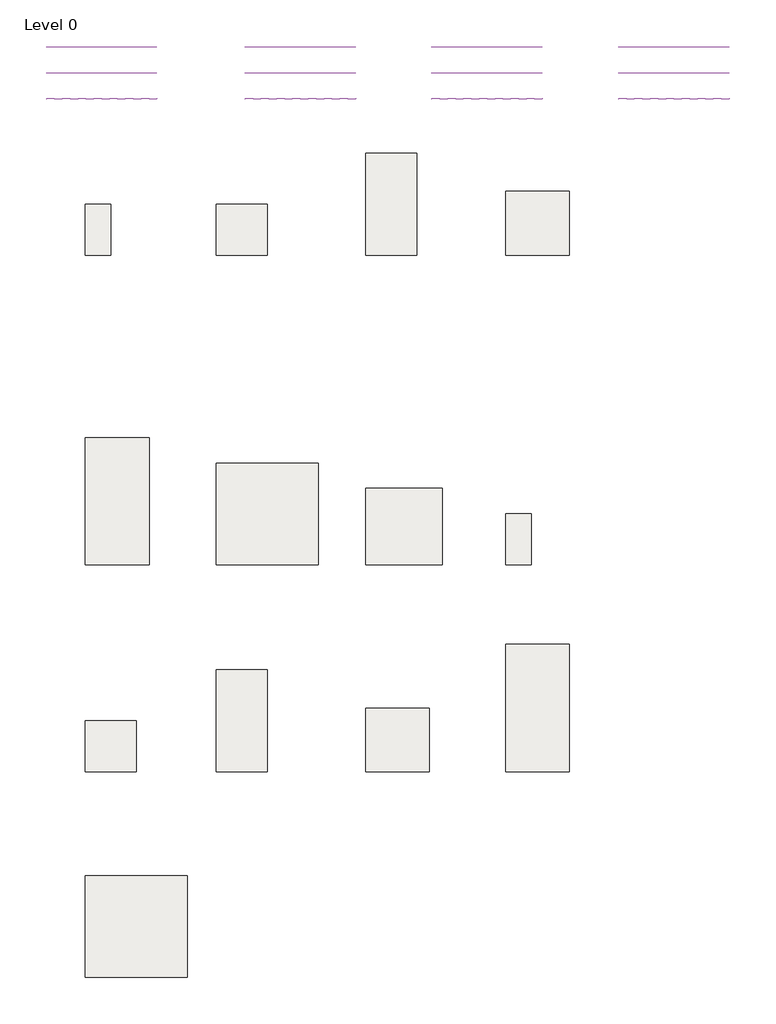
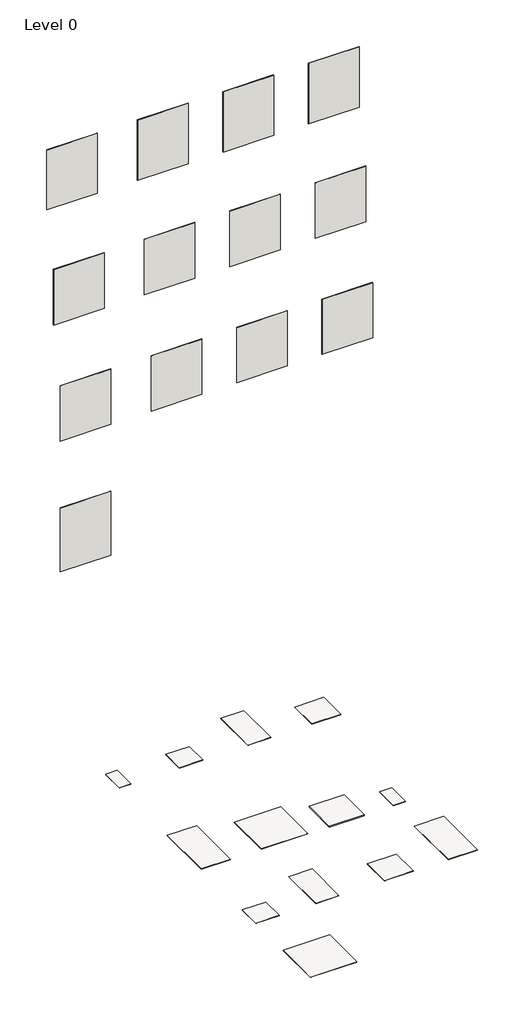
# One storey: 13 slabs, 13 walls.
"""IFC4 building model written with IfcOpenShell, lengths in millimetres."""

from ifc_helpers import new_model, si_unit, frame, origin, place, context, project, spatial, polyline, outline, extrude, element, save

model = new_model("IFC4")

# Units and contexts
model_context = context("Model", 3, world=origin())
ifc_project = project(units=[si_unit("LENGTHUNIT", "METRE", prefix="MILLI")], contexts=[model_context])

# Site, building, storey
site = spatial("IfcSite", under=ifc_project)
building = spatial("IfcBuilding", under=site)
storey = spatial("IfcBuildingStorey", under=building, Name="Level 0", Elevation=0.0)

# Slabs
placement = place(None, origin())
element("IfcSlab", 1, ObjectType="Floor_Tiles_Refin-Block-Cinder-60x120 NC82", at=placement, inside=storey, context=model_context, shape_type="SweptSolid", body=[
    extrude(outline(polyline([(10277.1861419, 6889.4623743), (10277.1861419, 5689.4623743), (9677.1861419, 5689.4623743), (9677.1861419, 6889.4623743), (10277.1861419, 6889.4623743)])), frame((0.0, 0.0, -10.0), z_axis=(0.0, 0.0, 1.0), x_axis=(1.0, 0.0, 0.0)), (0.0, 0.0, 1.0), 10.0),
])
element("IfcSlab", 2, ObjectType="Floor_Tiles_Refin-Block-Cinder-30x60 MX22", at=placement, inside=storey, context=model_context, shape_type="SweptSolid", body=[
    extrude(outline(polyline([(6674.3752062, 6289.4623743), (6674.3752062, 5689.4623743), (6374.3752062, 5689.4623743), (6374.3752062, 6289.4623743), (6674.3752062, 6289.4623743)])), frame((0.0, 0.0, -10.0), z_axis=(0.0, 0.0, 1.0), x_axis=(1.0, 0.0, 0.0)), (0.0, 0.0, 1.0), 10.0),
])
element("IfcSlab", 3, ObjectType="Floor_Tiles_Refin-Block-Cinder-120x120 MY54", at=placement, inside=storey, context=model_context, shape_type="SweptSolid", body=[
    extrude(outline(polyline([(9117.3924055, 3239.4623743), (9117.3924055, 2039.4623743), (7917.3924055, 2039.4623743), (7917.3924055, 3239.4623743), (9117.3924055, 3239.4623743)])), frame((0.0, 0.0, -10.0), z_axis=(0.0, 0.0, 1.0), x_axis=(1.0, 0.0, 0.0)), (0.0, 0.0, 1.0), 10.0),
])
element("IfcSlab", 4, ObjectType="Floor_Tiles_Refin-Block-Cinder-75x150 MW43", at=placement, inside=storey, context=model_context, shape_type="SweptSolid", body=[
    extrude(outline(polyline([(7124.3752062, 3539.4623743), (7124.3752062, 2039.4623743), (6374.3752062, 2039.4623743), (6374.3752062, 3539.4623743), (7124.3752062, 3539.4623743)])), frame((0.0, 0.0, -10.0), z_axis=(0.0, 0.0, 1.0), x_axis=(1.0, 0.0, 0.0)), (0.0, 0.0, 1.0), 10.0),
])
element("IfcSlab", 5, ObjectType="Floor_Tiles_Refin-Block-Cinder-60x60 MX46", at=placement, inside=storey, context=model_context, shape_type="SweptSolid", body=[
    extrude(outline(polyline([(8517.3924055, 6288.4192064), (8517.3924055, 5688.4192064), (7917.3924055, 5688.4192064), (7917.3924055, 6288.4192064), (8517.3924055, 6288.4192064)])), frame((0.0, 0.0, -10.0), z_axis=(0.0, 0.0, 1.0), x_axis=(1.0, 0.0, 0.0)), (0.0, 0.0, 1.0), 10.0),
])
element("IfcSlab", 6, ObjectType="Floor_Tiles_Refin-Block-Cinder-Soft-30x60 MX23", at=placement, inside=storey, context=model_context, shape_type="SweptSolid", body=[
    extrude(outline(polyline([(11625.4118688, 2639.4623743), (11625.4118688, 2039.4623743), (11325.4118688, 2039.4623743), (11325.4118688, 2639.4623743), (11625.4118688, 2639.4623743)])), frame((0.0, 0.0, -10.0), z_axis=(0.0, 0.0, 1.0), x_axis=(1.0, 0.0, 0.0)), (0.0, 0.0, 1.0), 10.0),
])
element("IfcSlab", 7, ObjectType="Floor_Tiles_Refin-Block-Cinder-75x75 MX85", at=placement, inside=storey, context=model_context, shape_type="SweptSolid", body=[
    extrude(outline(polyline([(12077.1861419, 6439.4623743), (12077.1861419, 5689.4623743), (11327.1861419, 5689.4623743), (11327.1861419, 6439.4623743), (12077.1861419, 6439.4623743)])), frame((0.0, 0.0, -10.0), z_axis=(0.0, 0.0, 1.0), x_axis=(1.0, 0.0, 0.0)), (0.0, 0.0, 1.0), 10.0),
])
element("IfcSlab", 8, ObjectType="Floor_Tiles_Refin-Block-Cinder-Soft-60x60 MX47", at=placement, inside=storey, context=model_context, shape_type="SweptSolid", body=[
    extrude(outline(polyline([(6974.3752062, 203.4367235), (6974.3752062, -396.5632765), (6374.3752062, -396.5632765), (6374.3752062, 203.4367235), (6974.3752062, 203.4367235)])), frame((0.0, 0.0, -10.0), z_axis=(0.0, 0.0, 1.0), x_axis=(1.0, 0.0, 0.0)), (0.0, 0.0, 1.0), 10.0),
])
element("IfcSlab", 9, ObjectType="Floor_Tiles_Refin-Block-Cinder-Soft-75x75 MX86", at=placement, inside=storey, context=model_context, shape_type="SweptSolid", body=[
    extrude(outline(polyline([(10427.1861419, 353.4367235), (10427.1861419, -396.5632765), (9677.1861419, -396.5632765), (9677.1861419, 353.4367235), (10427.1861419, 353.4367235)])), frame((0.0, 0.0, -10.0), z_axis=(0.0, 0.0, 1.0), x_axis=(1.0, 0.0, 0.0)), (0.0, 0.0, 1.0), 10.0),
])
element("IfcSlab", 10, ObjectType="Floor_Tiles_Refin-Block-Cinder-Soft-75x150 MW48", at=placement, inside=storey, context=model_context, shape_type="SweptSolid", body=[
    extrude(outline(polyline([(12075.4118688, 1103.4367235), (12075.4118688, -396.5632765), (11325.4118688, -396.5632765), (11325.4118688, 1103.4367235), (12075.4118688, 1103.4367235)])), frame((0.0, 0.0, -10.0), z_axis=(0.0, 0.0, 1.0), x_axis=(1.0, 0.0, 0.0)), (0.0, 0.0, 1.0), 10.0),
])
element("IfcSlab", 11, ObjectType="Floor_Tiles_Refin-Block-Cinder-OUT2.0-90x90 MJ95", at=placement, inside=storey, context=model_context, shape_type="SweptSolid", body=[
    extrude(outline(polyline([(10577.1861419, 2939.4623743), (10577.1861419, 2039.4623743), (9677.1861419, 2039.4623743), (9677.1861419, 2939.4623743), (10577.1861419, 2939.4623743)])), frame((0.0, 0.0, -21.0), z_axis=(0.0, 0.0, 1.0), x_axis=(1.0, 0.0, 0.0)), (0.0, 0.0, 1.0), 21.0),
])
element("IfcSlab", 12, ObjectType="Floor_Tiles_Refin-Block-Cinder-Soft-60x120 NC83", at=placement, inside=storey, context=model_context, shape_type="SweptSolid", body=[
    extrude(outline(polyline([(8517.3924055, 803.4367235), (8517.3924055, -396.5632765), (7917.3924055, -396.5632765), (7917.3924055, 803.4367235), (8517.3924055, 803.4367235)])), frame((0.0, 0.0, -10.0), z_axis=(0.0, 0.0, 1.0), x_axis=(1.0, 0.0, 0.0)), (0.0, 0.0, 1.0), 10.0),
])
element("IfcSlab", 13, ObjectType="Floor_Tiles_Refin-Block-Cinder-Soft-120x120 MY55", at=placement, inside=storey, context=model_context, shape_type="SweptSolid", body=[
    extrude(outline(polyline([(7574.3752062, -1620.5376257), (7574.3752062, -2820.5376257), (6374.3752062, -2820.5376257), (6374.3752062, -1620.5376257), (7574.3752062, -1620.5376257)])), frame((0.0, 0.0, -10.0), z_axis=(0.0, 0.0, 1.0), x_axis=(1.0, 0.0, 0.0)), (0.0, 0.0, 1.0), 10.0),
])

# Walls
element("IfcWall", 14, ObjectType="Wall_Tiles_Refin-Block-Cinder-60x60 MX46", at=placement, inside=storey, context=model_context, shape_type="SweptSolid", body=[
    extrude(outline(polyline([(9557.3752062, 8132.3838631), (8257.3752062, 8132.3838631), (8257.3752062, 8142.3838631), (9557.3752062, 8142.3838631), (9557.3752062, 8132.3838631)])), frame((0.0, 0.0, 14387.6770443), z_axis=(0.0, 0.0, 1.0), x_axis=(1.0, 0.0, 0.0)), (0.0, 0.0, 1.0), 1641.7417352),
])
element("IfcWall", 15, ObjectType="Wall_Tiles_Refin-Block-Cinder-60x120 NC82", at=placement, inside=storey, context=model_context, shape_type="SweptSolid", body=[
    extrude(outline(polyline([(11757.3752062, 8132.3838631), (10457.3752062, 8132.3838631), (10457.3752062, 8142.3838631), (11757.3752062, 8142.3838631), (11757.3752062, 8132.3838631)])), frame((0.0, 0.0, 14387.6770443), z_axis=(0.0, 0.0, 1.0), x_axis=(1.0, 0.0, 0.0)), (0.0, 0.0, 1.0), 1641.7417352),
])
element("IfcWall", 16, ObjectType="Wall_Tiles_Refin-Block-Cinder-30x60 MX22", at=placement, inside=storey, context=model_context, shape_type="SweptSolid", body=[
    extrude(outline(polyline([(7217.3752062, 8132.3838631), (5917.3752062, 8132.3838631), (5917.3752062, 8142.3838631), (7217.3752062, 8142.3838631), (7217.3752062, 8132.3838631)])), frame((0.0, 0.0, 14403.7267346), z_axis=(0.0, 0.0, 1.0), x_axis=(1.0, 0.0, 0.0)), (0.0, 0.0, 1.0), 1625.692045),
])
element("IfcWall", 17, ObjectType="Wall_Tiles_Refin-Block-Cinder-75x150 MW43", at=placement, inside=storey, context=model_context, shape_type="SweptSolid", body=[
    extrude(outline(polyline([(7217.3752062, 7827.3838631), (5917.3752062, 7827.3838631), (5917.3752062, 7837.3838631), (7217.3752062, 7837.3838631), (7217.3752062, 7827.3838631)])), frame((0.0, 0.0, 11452.5436262), z_axis=(0.0, 0.0, 1.0), x_axis=(1.0, 0.0, 0.0)), (0.0, 0.0, 1.0), 1513.1985566),
])
element("IfcWall", 18, ObjectType="Wall_Tiles_Refin-Block-Cinder-120x120 MY54", at=placement, inside=storey, context=model_context, shape_type="SweptSolid", body=[
    extrude(outline(polyline([(9557.3752062, 7827.3838631), (8257.3752062, 7827.3838631), (8257.3752062, 7837.3838631), (9557.3752062, 7837.3838631), (9557.3752062, 7827.3838631)])), frame((0.0, 0.0, 11452.5436262), z_axis=(0.0, 0.0, 1.0), x_axis=(1.0, 0.0, 0.0)), (0.0, 0.0, 1.0), 1513.1985566),
])
element("IfcWall", 19, ObjectType="Wall_Tiles_Refin-Block-Cinder-OUT2.0-90x90 MJ95", at=placement, inside=storey, context=model_context, shape_type="SweptSolid", body=[
    extrude(outline(polyline([(11757.3752062, 7827.3838631), (10457.3752062, 7827.3838631), (10457.3752062, 7837.3838631), (11757.3752062, 7837.3838631), (11757.3752062, 7827.3838631)])), frame((0.0, 0.0, 11452.5436262), z_axis=(0.0, 0.0, 1.0), x_axis=(1.0, 0.0, 0.0)), (0.0, 0.0, 1.0), 1513.1985566),
])
element("IfcWall", 20, ObjectType="Wall_Tiles_Refin-Block-Cinder-Soft-60x60 MX47", at=placement, inside=storey, context=model_context, shape_type="SweptSolid", body=[
    extrude(outline(polyline([(7217.3752062, 7522.3838631), (5917.3752062, 7522.3838631), (5917.3752062, 7532.3838631), (7217.3752062, 7532.3838631), (7217.3752062, 7522.3838631)])), frame((0.0, 0.0, 8479.1027214), z_axis=(0.0, 0.0, 1.0), x_axis=(1.0, 0.0, 0.0)), (0.0, 0.0, 1.0), 1502.5740159),
])
element("IfcWall", 21, ObjectType="Wall_Tiles_Refin-Block-Cinder-Soft-60x120 NC83", at=placement, inside=storey, context=model_context, shape_type="SweptSolid", body=[
    extrude(outline(polyline([(9557.3752062, 7522.3838631), (8257.3752062, 7522.3838631), (8257.3752062, 7532.3838631), (9557.3752062, 7532.3838631), (9557.3752062, 7522.3838631)])), frame((0.0, 0.0, 8479.1027214), z_axis=(0.0, 0.0, 1.0), x_axis=(1.0, 0.0, 0.0)), (0.0, 0.0, 1.0), 1502.5740159),
])
element("IfcWall", 22, ObjectType="Wall_Tiles_Refin-Block-Cinder-Soft-75x75 MX86", at=placement, inside=storey, context=model_context, shape_type="SweptSolid", body=[
    extrude(outline(polyline([(11757.3752062, 7522.3838631), (10457.3752062, 7522.3838631), (10457.3752062, 7532.3838631), (11757.3752062, 7532.3838631), (11757.3752062, 7522.3838631)])), frame((0.0, 0.0, 8479.1027214), z_axis=(0.0, 0.0, 1.0), x_axis=(1.0, 0.0, 0.0)), (0.0, 0.0, 1.0), 1502.5740159),
])
element("IfcWall", 23, ObjectType="Wall_Tiles_Refin-Block-Cinder-75x75 MX85", at=placement, inside=storey, context=model_context, shape_type="SweptSolid", body=[
    extrude(outline(polyline([(13957.3752062, 8132.3838631), (12657.3752062, 8132.3838631), (12657.3752062, 8142.3838631), (13957.3752062, 8142.3838631), (13957.3752062, 8132.3838631)])), frame((0.0, 0.0, 14387.6770443), z_axis=(0.0, 0.0, 1.0), x_axis=(1.0, 0.0, 0.0)), (0.0, 0.0, 1.0), 1641.7417352),
])
element("IfcWall", 24, ObjectType="Wall_Tiles_Refin-Block-Cinder-Soft-30x60 MX23", at=placement, inside=storey, context=model_context, shape_type="SweptSolid", body=[
    extrude(outline(polyline([(13957.3752062, 7827.3838631), (12657.3752062, 7827.3838631), (12657.3752062, 7837.3838631), (13957.3752062, 7837.3838631), (13957.3752062, 7827.3838631)])), frame((0.0, 0.0, 11452.5436262), z_axis=(0.0, 0.0, 1.0), x_axis=(1.0, 0.0, 0.0)), (0.0, 0.0, 1.0), 1513.1985566),
])
element("IfcWall", 25, ObjectType="Wall_Tiles_Refin-Block-Cinder-Soft-75x150 MW48", at=placement, inside=storey, context=model_context, shape_type="SweptSolid", body=[
    extrude(outline(polyline([(13957.3752062, 7522.3838631), (12657.3752062, 7522.3838631), (12657.3752062, 7532.3838631), (13957.3752062, 7532.3838631), (13957.3752062, 7522.3838631)])), frame((0.0, 0.0, 8479.1027214), z_axis=(0.0, 0.0, 1.0), x_axis=(1.0, 0.0, 0.0)), (0.0, 0.0, 1.0), 1502.5740159),
])
element("IfcWall", 26, ObjectType="Wall_Tiles_Refin-Block-Cinder-Soft-120x120 MY55", at=placement, inside=storey, context=model_context, shape_type="SweptSolid", body=[
    extrude(outline(polyline([(7217.3752062, 7522.3838631), (5917.3752062, 7522.3838631), (5917.3752062, 7532.3838631), (7217.3752062, 7532.3838631), (7217.3752062, 7522.3838631)])), frame((0.0, 0.0, 4921.0785975), z_axis=(0.0, 0.0, 1.0), x_axis=(1.0, 0.0, 0.0)), (0.0, 0.0, 1.0), 1733.8430465),
])

save(model, "model.ifc")
